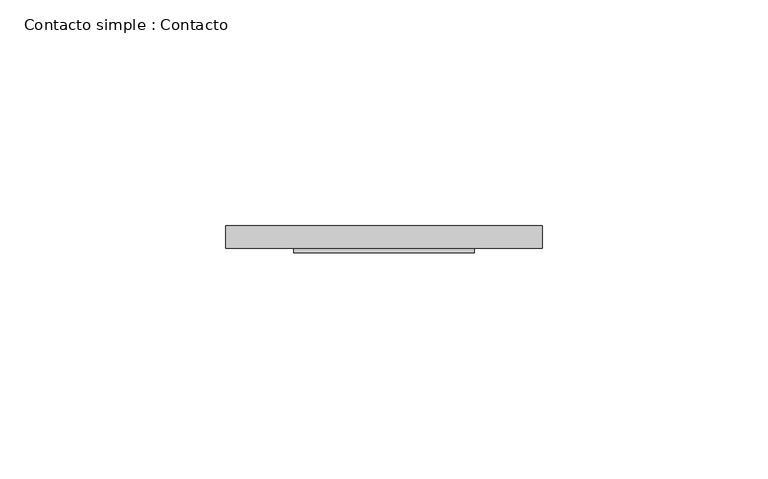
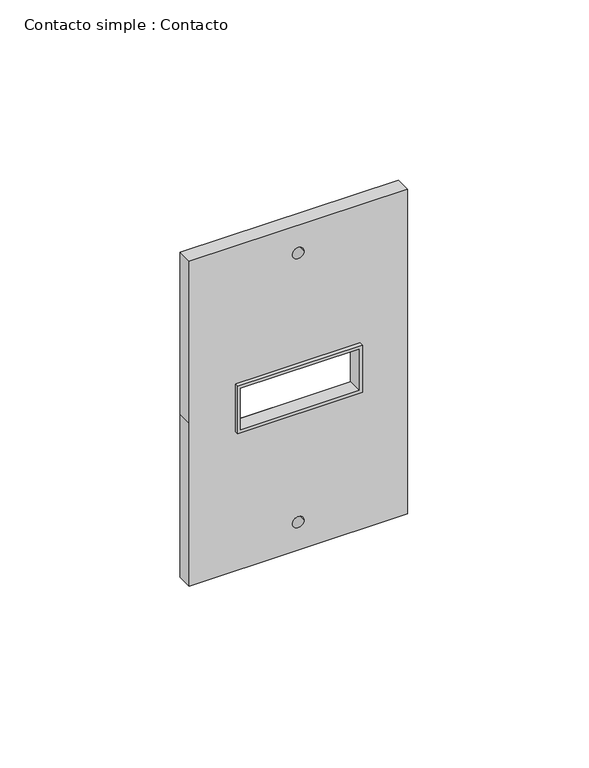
"""IFC4 building model written with IfcOpenShell, lengths in millimetres: proxy geometry, Contacto simple : Contacto."""

from ifc_helpers import new_model, si_unit, point, frame, frame_2d, origin, place, context, project, spatial, polyline, circle_curve, trimmed, segment, composite_curve, outline, extrude, source, transform, mapped, element, save


def contacto_simple_contacto_bd5a369b(model_context):
    return source(origin(), model_context, "Body", "SweptSolid", [
        extrude(outline(polyline([(342.0, 145.0), (358.0, 145.0), (358.0, 105.0), (342.0, 105.0), (342.0, 145.0)]), holes=[polyline([(357.0, 106.0), (357.0, 144.0), (343.0, 144.0), (343.0, 106.0), (357.0, 106.0)])]), frame((0.0, -75.9684395, 0.0), z_axis=(0.0, 1.0, 0.0), x_axis=(0.0, 0.0, 1.0)), (0.0, 0.0, 1.0), 4.7658788),
        extrude(outline(polyline([(405.0, 160.0), (405.0, 90.0), (350.0, 90.0), (295.0, 90.0), (295.0, 160.0), (405.0, 160.0)]), holes=[composite_curve([segment(trimmed(circle_curve(frame_2d((395.5814465, 125.0)), 1.8475425), [point((395.5814465, 123.1524575))], [point((395.5814465, 126.8475425))], True, "CARTESIAN"), True, "CONTINUOUS"), segment(trimmed(circle_curve(frame_2d((395.5814465, 125.0)), 1.8475425), [point((395.5814465, 126.8475425))], [point((395.5814465, 123.1524575))], True, "CARTESIAN"), True, "CONTINUOUS")], self_intersect=False), composite_curve([segment(trimmed(circle_curve(frame_2d((304.4185535, 125.0)), 1.8475425), [point((304.4185535, 123.1524575))], [point((304.4185535, 126.8475425))], True, "CARTESIAN"), True, "CONTINUOUS"), segment(trimmed(circle_curve(frame_2d((304.4185535, 125.0)), 1.8475425), [point((304.4185535, 126.8475425))], [point((304.4185535, 123.1524575))], True, "CARTESIAN"), True, "CONTINUOUS")], self_intersect=False), polyline([(358.0, 105.0), (358.0, 145.0), (342.0, 145.0), (342.0, 105.0), (358.0, 105.0)])]), frame((0.0, -75.0, 0.0), z_axis=(0.0, 1.0, 0.0), x_axis=(0.0, 0.0, 1.0)), (0.0, 0.0, 1.0), 5.0),
    ])


if __name__ == "__main__":
    model = new_model("IFC4")
    model_context = context("Model", 3, world=origin())
    ifc_project = project(units=[si_unit("LENGTHUNIT", "METRE", prefix="MILLI")], contexts=[model_context])
    site = spatial("IfcSite", under=ifc_project)
    building = spatial("IfcBuilding", under=site)
    placement = place(None, origin())
    contacto_simple_contacto_shape = contacto_simple_contacto_bd5a369b(model_context)
    element("IfcBuildingElementProxy", 1, Name="Contacto simple : Contacto", ObjectType="Contacto simple : Contacto", at=placement, inside=building, context=model_context, shape_type="MappedRepresentation", body=[
        mapped(contacto_simple_contacto_shape, transform((0.0, 0.0, 0.0), x_axis=(1.0, 0.0, 0.0), y_axis=(0.0, 1.0, 0.0), z_axis=(0.0, 0.0, 1.0))),
    ])
    save(model, "model.ifc")
